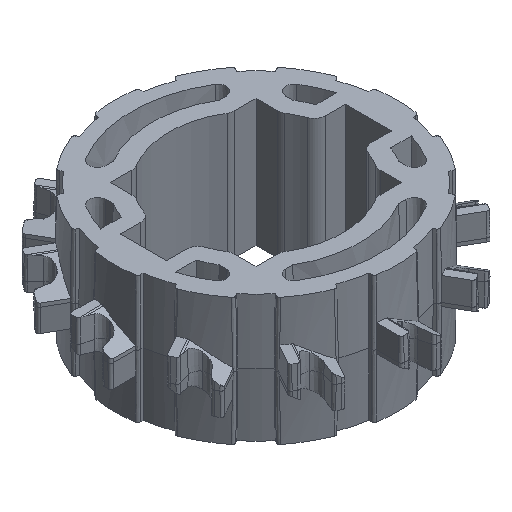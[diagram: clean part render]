
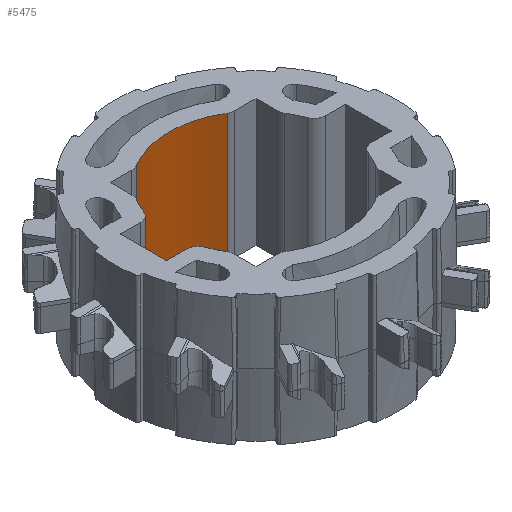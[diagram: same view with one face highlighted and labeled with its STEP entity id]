
A CAD part, isometric view. The second image highlights one B-rep face of the part: STEP entity #5475.
In plain terms, the highlighted cylindrical face has radius 15.154 mm (diameter 30.307 mm), a partial arc.
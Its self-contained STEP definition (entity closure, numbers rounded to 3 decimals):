
#4598=CYLINDRICAL_SURFACE('',#15808,15.154);
#5475=ADVANCED_FACE('',(#6344),#4598,.F.);
#6344=FACE_OUTER_BOUND('',#6988,.T.);
#6988=EDGE_LOOP('',(#8503,#8504,#8505,#8506));
#7760=CIRCLE('',#15718,15.154);
#7800=CIRCLE('',#15807,15.154);
#8503=ORIENTED_EDGE('',*,*,#12676,.F.);
#8504=ORIENTED_EDGE('',*,*,#12677,.F.);
#8505=ORIENTED_EDGE('',*,*,#12652,.F.);
#8506=ORIENTED_EDGE('',*,*,#12556,.F.);
#11491=VERTEX_POINT('',#20540);
#11492=VERTEX_POINT('',#20541);
#11555=VERTEX_POINT('',#20795);
#11569=VERTEX_POINT('',#20843);
#12556=EDGE_CURVE('',#11491,#11492,#7760,.T.);
#12652=EDGE_CURVE('',#11492,#11555,#14123,.T.);
#12676=EDGE_CURVE('',#11569,#11491,#14145,.T.);
#12677=EDGE_CURVE('',#11555,#11569,#7800,.T.);
#14123=LINE('',#20794,#14923);
#14145=LINE('',#20842,#14945);
#14923=VECTOR('',#17138,1.);
#14945=VECTOR('',#17184,1.);
#15718=AXIS2_PLACEMENT_3D('',#20539,#16942,#16943);
#15807=AXIS2_PLACEMENT_3D('',#20844,#17185,#17186);
#15808=AXIS2_PLACEMENT_3D('',#20845,#17187,#17188);
#16942=DIRECTION('',(0.,0.,-1.));
#16943=DIRECTION('',(-0.521,0.853,0.));
#17138=DIRECTION('',(0.,0.,-1.));
#17184=DIRECTION('',(0.,0.,1.));
#17185=DIRECTION('',(0.,0.,1.));
#17186=DIRECTION('',(0.521,0.853,0.));
#17187=DIRECTION('',(0.,0.,1.));
#17188=DIRECTION('',(0.,-1.,0.));
#20539=CARTESIAN_POINT('',(0.,0.,11.07));
#20540=CARTESIAN_POINT('',(-7.898,12.933,11.07));
#20541=CARTESIAN_POINT('',(7.898,12.933,11.07));
#20794=CARTESIAN_POINT('',(7.898,12.933,11.07));
#20795=CARTESIAN_POINT('',(7.898,12.933,-11.07));
#20842=CARTESIAN_POINT('',(-7.898,12.933,0.));
#20843=CARTESIAN_POINT('',(-7.898,12.933,-11.07));
#20844=CARTESIAN_POINT('',(0.,0.,-11.07));
#20845=CARTESIAN_POINT('',(0.,0.,11.07));
